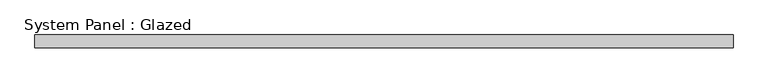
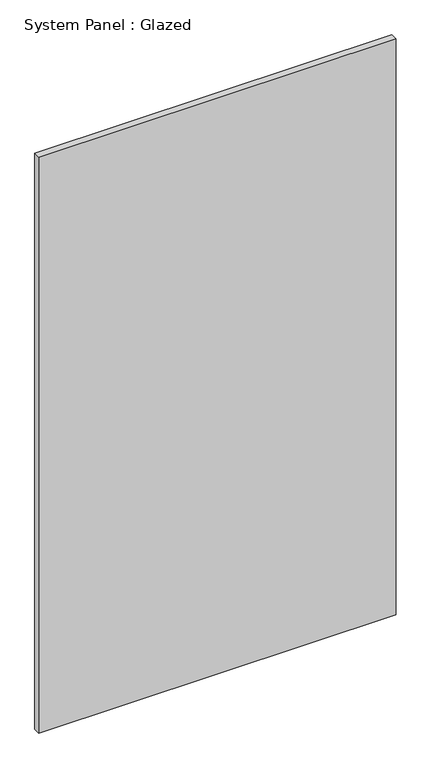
"""IFC4 building model written with IfcOpenShell, lengths in millimetres: plate geometry, System Panel : Glazed."""

from ifc_helpers import new_model, si_unit, origin, origin_with_axes, place, context, project, spatial, polyline, outline, extrude, source, transform, mapped, element, save


def system_panel_glazed_df53f363(model_context):
    return source(origin(), model_context, "Body", "SweptSolid", [
        extrude(outline(polyline([(697.1738156, 19.05), (-697.1738156, 19.05), (-697.1738156, 44.45), (697.1738156, 44.45), (697.1738156, 19.05)])), origin_with_axes(), (0.0, 0.0, 1.0), 2374.9),
    ])


if __name__ == "__main__":
    model = new_model("IFC4")
    model_context = context("Model", 3, world=origin())
    ifc_project = project(units=[si_unit("LENGTHUNIT", "METRE", prefix="MILLI")], contexts=[model_context])
    site = spatial("IfcSite", under=ifc_project)
    building = spatial("IfcBuilding", under=site)
    placement = place(None, origin())
    system_panel_glazed_shape = system_panel_glazed_df53f363(model_context)
    element("IfcPlate", 1, ObjectType="System Panel : Glazed", at=placement, inside=building, context=model_context, shape_type="MappedRepresentation", body=[
        mapped(system_panel_glazed_shape, transform((0.0, 0.0, 0.0), x_axis=(1.0, 0.0, 0.0), y_axis=(0.0, 1.0, 0.0), z_axis=(0.0, 0.0, 1.0))),
    ])
    save(model, "model.ifc")
